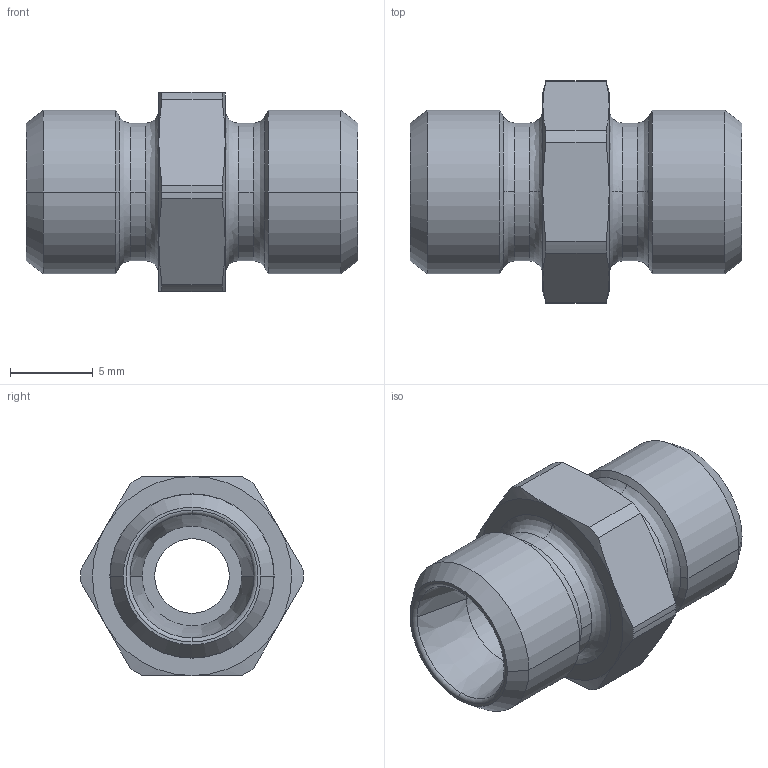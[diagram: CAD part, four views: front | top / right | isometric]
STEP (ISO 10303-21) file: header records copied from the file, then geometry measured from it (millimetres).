
FILE_DESCRIPTION((''),'2;1');
FILE_NAME('103502.stp','2007-10-31T11:35:13',(''),(''),'AutoCAD STEP 2000i','AutoCAD 2000i',', , ');
FILE_SCHEMA(('CONFIG_CONTROL_DESIGN'));
Length unit declared in the file: millimetre
Products named in the file (2): 103502.0; CHIAVE SMUSSATA#0
Assembly tree (1 placements, depth 2):
  103502.0
    CHIAVE SMUSSATA#0
Bounding box: 20 x 13.4 x 12 mm (x, y, z)
Volume: 1083 mm3; surface area: 1182.6 mm2
Topology: 1 solids, 1 shells, 70 faces, 172 edges, 108 vertices
Faces by surface type: cone 24, cylinder 22, plane 12, bspline 8, torus 4
Entity records: 2513 total; most frequent: CARTESIAN_POINT 752, DIRECTION 384, ORIENTED_EDGE 344, AXIS2_PLACEMENT_3D 172, EDGE_CURVE 172, VERTEX_POINT 108, CIRCLE 108, EDGE_LOOP 76
